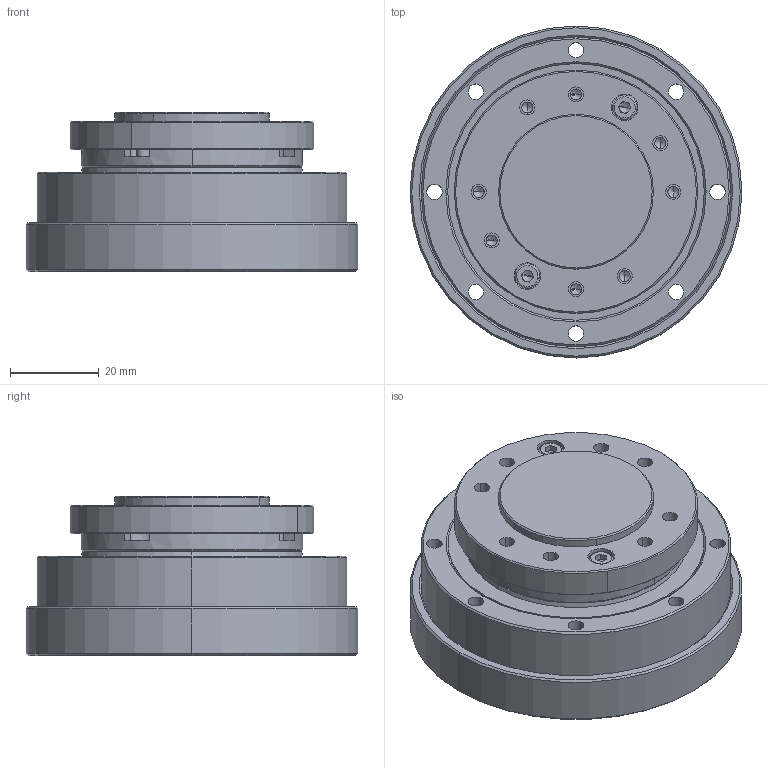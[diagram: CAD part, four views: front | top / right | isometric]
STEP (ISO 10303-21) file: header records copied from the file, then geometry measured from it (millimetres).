
FILE_DESCRIPTION (( 'STEP AP203' ), '1' );
FILE_NAME ('YT-14-XX-U-I.STEP', '2024-12-13T02:29:38', ( 'Windows User' ), ( 'P R C' ), 'SwSTEP 2.0', 'SolidWorks 2016', '' );
FILE_SCHEMA (( 'CONFIG_CONTROL_DESIGN' ));
Length unit declared in the file: millimetre
Products named in the file (21): SHG14-密封圈HM标准LHT14-U-1LHT-14-I-DL帽型14行星谐波无内部特征; hexagon socket head cap screws gb2_GB_FASTENER_SCREWS_HSHCS M2X6-N; F14050A15HM标准LHT14-U-1LHT-14-I-DL帽型14行星谐波无内部特征; SHG14HM标准LHT14-U-1LHT-14-I-DL帽型14行星谐波无内部特征; YT-14-XX-U-I; E313-321A 凸轮一体化标准LHT14-U-1LHT-14-I-DL帽型14行星谐波无内部特征; E112-100(001)A 柔轮HM标准LHT14-U-1LHT-14-I-DL帽型14行星谐波无内部特征; B112-300A 波发生器部件 -轮毂D8HM标准LHT14-U-1LHT-14-I-DL帽型14行星谐波无内部特征; E112-200A 刚轮HM标准LHT14-U-1LHT-14-I-DL帽型14行星谐波无内部特征; HMHS-14-XX-II -SP-D8HM标准LHT14-U-1LHT-14-I-DL帽型14行星谐波无内部特征; hexagon socket head cap screws gbd_GB_FASTENER_SCREWS_HSHCS M3X6-N; E223-502A 后盖LHT-17-XX-U-III帽型17行星谐波电机法兰14帽型行星谐波无内部特征; F14050A15-BHM标准LHT14-U-1LHT-14-I-DL帽型14行星谐波无内部特征; 14帽型行星谐波输出端盖无内部特征; F14050A15-AHM标准LHT14-U-1LHT-14-I-DL帽型14行星谐波无内部特征; SHG14-E113-420AHM标准LHT14-U-1LHT-14-I-DL帽型14行星谐波无内部特征; hexagon socket head cap screws gbd_GB_FASTENER_SCREWS_HSHCS M3X12-N; F14050A15-CHM标准LHT14-U-1LHT-14-I-DL帽型14行星谐波无内部特征; SHG14-E113-410AHM标准LHT14-U-1LHT-14-I-DL帽型14行星谐波无内部特征; 帽型14谐波一体机轴承挡圈无内部特征; F14050A15-DHM标准LHT14-U-1LHT-14-I-DL帽型14行星谐波无内部特征
Assembly tree (51 placements, depth 5):
  YT-14-XX-U-I
    HMHS-14-XX-II -SP-D8HM标准LHT14-U-1LHT-14-I-DL帽型14行星谐波无内部特征
      SHG14HM标准LHT14-U-1LHT-14-I-DL帽型14行星谐波无内部特征
        SHG14-E113-420AHM标准LHT14-U-1LHT-14-I-DL帽型14行星谐波无内部特征
        SHG14-E113-410AHM标准LHT14-U-1LHT-14-I-DL帽型14行星谐波无内部特征
        SHG14-密封圈HM标准LHT14-U-1LHT-14-I-DL帽型14行星谐波无内部特征
      E112-100(001)A 柔轮HM标准LHT14-U-1LHT-14-I-DL帽型14行星谐波无内部特征
      E112-200A 刚轮HM标准LHT14-U-1LHT-14-I-DL帽型14行星谐波无内部特征
      hexagon socket head cap screws gbd_GB_FASTENER_SCREWS_HSHCS M3X6-N  x4
      B112-300A 波发生器部件 -轮毂D8HM标准LHT14-U-1LHT-14-I-DL帽型14行星谐波无内部特征
        F14050A15HM标准LHT14-U-1LHT-14-I-DL帽型14行星谐波无内部特征
          F14050A15-BHM标准LHT14-U-1LHT-14-I-DL帽型14行星谐波无内部特征
          F14050A15-AHM标准LHT14-U-1LHT-14-I-DL帽型14行星谐波无内部特征
          F14050A15-CHM标准LHT14-U-1LHT-14-I-DL帽型14行星谐波无内部特征  x23
          F14050A15-DHM标准LHT14-U-1LHT-14-I-DL帽型14行星谐波无内部特征
        E313-321A 凸轮一体化标准LHT14-U-1LHT-14-I-DL帽型14行星谐波无内部特征
    E223-502A 后盖LHT-17-XX-U-III帽型17行星谐波电机法兰14帽型行星谐波无内部特征
    14帽型行星谐波输出端盖无内部特征
    hexagon socket head cap screws gbd_GB_FASTENER_SCREWS_HSHCS M3X12-N  x2
    帽型14谐波一体机轴承挡圈无内部特征
    hexagon socket head cap screws gb2_GB_FASTENER_SCREWS_HSHCS M2X6-N  x6
Bounding box: 75 x 75 x 36.01 mm (x, y, z)
Volume: 87984.9 mm3; surface area: 69975.5 mm2
Topology: 47 solids, 47 shells, 1524 faces, 3893 edges, 2427 vertices
Faces by surface type: plane 670, cylinder 419, cone 220, bspline 215
Entity records: 48248 total; most frequent: CARTESIAN_POINT 14376, ORIENTED_EDGE 6426, DIRECTION 6295, EDGE_CURVE 3213, AXIS2_PLACEMENT_3D 2228, VERTEX_POINT 2085, LINE 1839, VECTOR 1839
